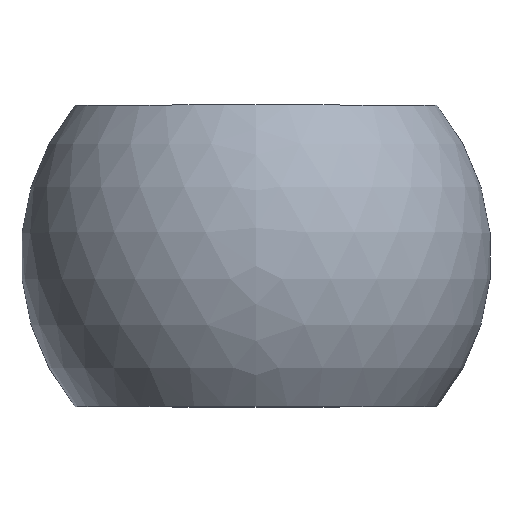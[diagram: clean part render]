
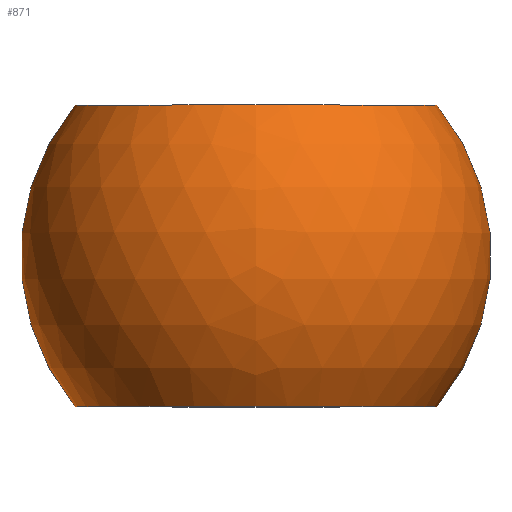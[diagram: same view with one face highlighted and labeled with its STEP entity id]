
A CAD part, top view. The second image highlights one B-rep face of the part: STEP entity #871.
In plain terms, the highlighted spherical face has radius 62.5 mm.
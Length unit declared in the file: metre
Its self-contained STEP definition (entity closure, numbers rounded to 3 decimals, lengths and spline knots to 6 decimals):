
#871=ADVANCED_FACE('',(#1976,#1977),#1978,.T.);
#1976=FACE_OUTER_BOUND('',#3905,.T.);
#1977=FACE_OUTER_BOUND('',#3906,.T.);
#1978=SPHERICAL_SURFACE('',#3907,0.0625);
#3905=EDGE_LOOP('',(#5764));
#3906=EDGE_LOOP('',(#5765));
#3907=AXIS2_PLACEMENT_3D('',#5766,#5767,#5768);
#5764=ORIENTED_EDGE('',*,*,#8108,.F.);
#5765=ORIENTED_EDGE('',*,*,#7977,.T.);
#5766=CARTESIAN_POINT('',(0.19455,0.013847,0.));
#5767=DIRECTION('',(0.0,1.0,0.0));
#5768=DIRECTION('',(-1.0,0.0,0.0));
#7977=EDGE_CURVE('',#8871,#8871,#8872,.T.);
#8108=EDGE_CURVE('',#9083,#9083,#9084,.T.);
#8871=VERTEX_POINT('',#10179);
#8872=CIRCLE('',#10180,0.048023);
#9083=VERTEX_POINT('',#10391);
#9084=CIRCLE('',#10392,0.048023);
#10179=CARTESIAN_POINT('',(0.19455,-0.026153,0.048023));
#10180=AXIS2_PLACEMENT_3D('',#11501,#11502,#11503);
#10391=CARTESIAN_POINT('',(0.19455,0.053847,0.048023));
#10392=AXIS2_PLACEMENT_3D('',#11744,#11745,#11746);
#11501=CARTESIAN_POINT('',(0.19455,-0.026153,0.0));
#11502=DIRECTION('',(0.0,1.0,0.0));
#11503=DIRECTION('',(0.0,0.0,1.0));
#11744=CARTESIAN_POINT('',(0.19455,0.053847,0.0));
#11745=DIRECTION('',(0.0,1.0,0.0));
#11746=DIRECTION('',(0.0,0.0,1.0));
